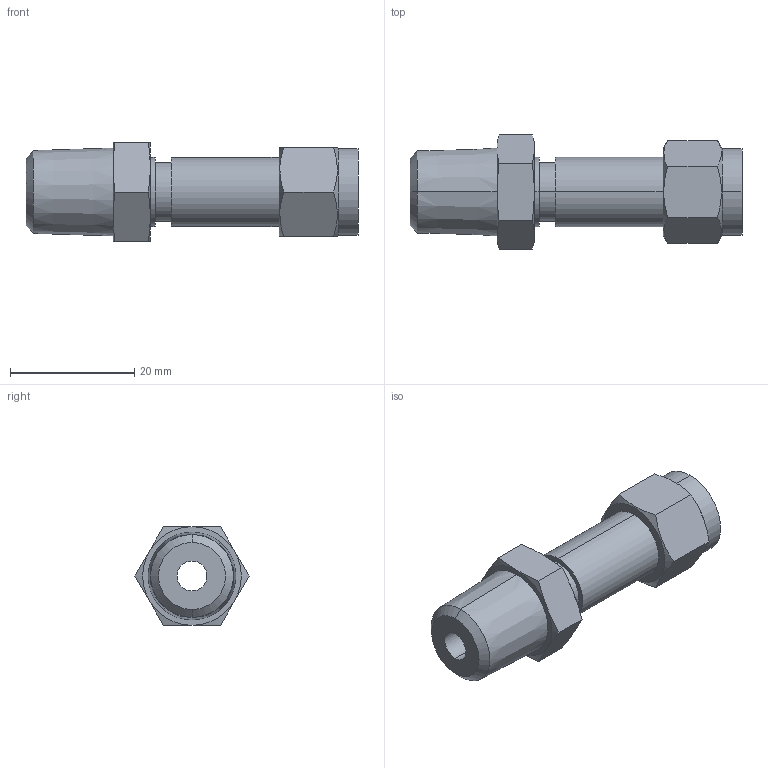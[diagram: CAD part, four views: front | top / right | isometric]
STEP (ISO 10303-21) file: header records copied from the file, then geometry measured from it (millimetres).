
FILE_DESCRIPTION (( 'STEP AP203' ), '1' );
FILE_NAME ('DSC04-04 SS.STEP', '2009-09-08T09:00:40', ( ' ' ), ( '' ), 'SwSTEP 2.0', 'SolidWorks 2008', '' );
FILE_SCHEMA (( 'CONFIG_CONTROL_DESIGN' ));
Length unit declared in the file: millimetre
Products named in the file (1): DSC04-04 SS
Bounding box: 53.4 x 18.34 x 15.88 mm (x, y, z)
Volume: 6255.6 mm3; surface area: 3660.4 mm2
Topology: 1 solids, 1 shells, 52 faces, 116 edges, 72 vertices
Faces by surface type: cone 20, plane 20, cylinder 12
Entity records: 1645 total; most frequent: CARTESIAN_POINT 449, ORIENTED_EDGE 232, DIRECTION 226, EDGE_CURVE 116, AXIS2_PLACEMENT_3D 97, VERTEX_POINT 72, EDGE_LOOP 60, ADVANCED_FACE 52
